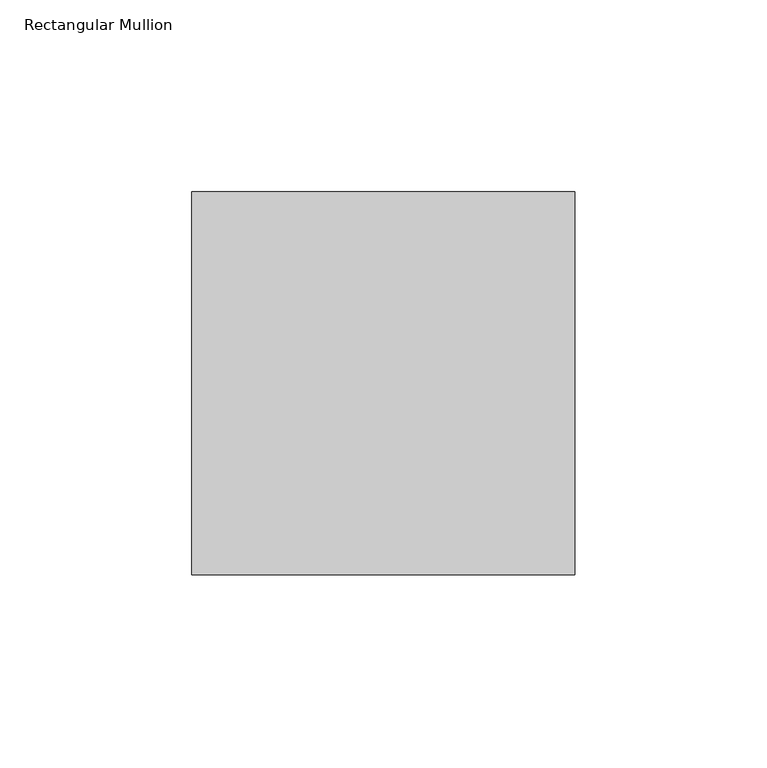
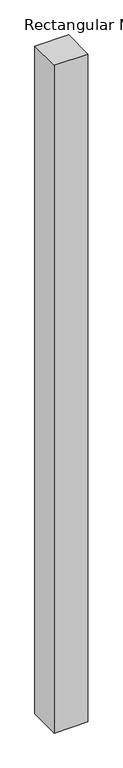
"""IFC4 building model written with IfcOpenShell, lengths in millimetres: member geometry, Rectangular Mullion : ARQ_REJA_PILAR_100x100mm."""

import ifcopenshell
import ifcopenshell.guid

model = None  # the IFC model being written
_history = None  # IfcOwnerHistory: only IFC2X3 demands one
_inside = {}  # id of a spatial element -> (the spatial element, [elements in it])
_under = {}  # id of a project, library or spatial element -> (it, [spatial elements below it])
_declared = {}  # id of a project -> (the project, [libraries it declares])
_typed = {}  # id of a type object -> (the type object, [elements of that type])
_made_of = {}  # id of a material, layer set ... -> (it, [elements and type objects made of it])


def new_model(schema):
    """Start an empty IFC model of exactly this schema.

    Asked for "IFC4X3", IfcOpenShell would pick the latest addendum, in which some entities
    have other attributes; the version numbers below select the first issue.
    IFC2X3 requires an IfcOwnerHistory on every rooted entity: one is made here for all.
    """
    global model, _history
    if schema == "IFC4X3":
        model = ifcopenshell.file(schema_version=(4, 3, 0, 0))
    else:
        model = ifcopenshell.file(schema=schema)
    _inside.clear()
    _under.clear()
    _declared.clear()
    _typed.clear()
    _made_of.clear()
    _history = None
    if model.schema == "IFC2X3":
        org = make("IfcOrganization", Name="unknown")
        user = make(
            "IfcPersonAndOrganization",
            ThePerson=make("IfcPerson", FamilyName="unknown"),
            TheOrganization=org,
        )
        app = make(
            "IfcApplication",
            ApplicationDeveloper=org,
            Version="unknown",
            ApplicationFullName="unknown",
            ApplicationIdentifier="unknown",
        )
        _history = make(
            "IfcOwnerHistory",
            OwningUser=user,
            OwningApplication=app,
            ChangeAction="ADDED",
            CreationDate=0,
        )
    return model


def make(cls, **values):
    """One entity of the class cls with the attributes given. An attribute that is None is left unset."""
    return model.create_entity(
        cls, **{name: value for name, value in values.items() if value is not None}
    )


def rooted(cls, **values):
    """An entity with a GlobalId (a new one), such as an element, a storey or a relation."""
    return make(cls, GlobalId=ifcopenshell.guid.new(), OwnerHistory=_history, **values)


def si_unit(unit_type, name, prefix=None):
    """IfcSIUnit, for example si_unit("LENGTHUNIT", "METRE", prefix="MILLI")."""
    return make("IfcSIUnit", UnitType=unit_type, Prefix=prefix, Name=name)


def assignment(units):
    """IfcUnitAssignment: the units of a project."""
    return None if units is None else make("IfcUnitAssignment", Units=units)


def point(xyz):
    """IfcCartesianPoint."""
    return None if xyz is None else make("IfcCartesianPoint", Coordinates=xyz)


def direction(xyz):
    """IfcDirection."""
    return None if xyz is None else make("IfcDirection", DirectionRatios=xyz)


def frame(location, z_axis=None, x_axis=None):
    """IfcAxis2Placement3D, a coordinate frame: its origin and axes. An axis left out is left unset."""
    return make(
        "IfcAxis2Placement3D",
        Location=point(location),
        Axis=direction(z_axis),
        RefDirection=direction(x_axis),
    )


def origin():
    """The frame at (0, 0, 0) with its axes left unset."""
    return frame((0.0, 0.0, 0.0))


def place(relative_to, where):
    """IfcLocalPlacement: puts the frame where relative to a parent placement (None: the world)."""
    return make(
        "IfcLocalPlacement", PlacementRelTo=relative_to, RelativePlacement=where
    )


def context(
    kind, dimensions, precision=None, world=None, true_north=None, identifier=None
):
    """IfcGeometricRepresentationContext, for example the 3D "Model" context."""
    return make(
        "IfcGeometricRepresentationContext",
        ContextIdentifier=identifier,
        ContextType=kind,
        CoordinateSpaceDimension=dimensions,
        Precision=precision,
        WorldCoordinateSystem=world,
        TrueNorth=true_north,
    )


def project(units=None, contexts=None):
    """IfcProject with its units and contexts."""
    return rooted(
        "IfcProject",
        Name="project",
        RepresentationContexts=contexts,
        UnitsInContext=assignment(units),
    )


def spatial(cls, under=None, at=None, **own):
    """A site, building, storey or space (cls), placed at a placement, below another one or the project."""
    s = rooted(cls, ObjectPlacement=at, **own)
    if under is not None:
        _under.setdefault(under.id(), (under, []))[1].append(s)
    return s


def polyline(points):
    """IfcPolyline through the points."""
    return make("IfcPolyline", Points=[point(p) for p in points])


def outline(outer, holes=None, kind="AREA"):
    """IfcArbitraryClosedProfileDef: a profile drawn as a closed curve; with holes, ...WithVoids."""
    if holes is None:
        return make("IfcArbitraryClosedProfileDef", ProfileType=kind, OuterCurve=outer)
    return make(
        "IfcArbitraryProfileDefWithVoids",
        ProfileType=kind,
        OuterCurve=outer,
        InnerCurves=holes,
    )


def extrude(swept, where, along, depth):
    """IfcExtrudedAreaSolid: the profile swept, set in the frame where, extruded along a direction by depth."""
    return make(
        "IfcExtrudedAreaSolid",
        SweptArea=swept,
        Position=where,
        ExtrudedDirection=direction(along),
        Depth=depth,
    )


def shape(context_of_items, identifier, shape_type, items):
    """IfcShapeRepresentation: the items that make up one representation, for example the "Body"."""
    return make(
        "IfcShapeRepresentation",
        ContextOfItems=context_of_items,
        RepresentationIdentifier=identifier,
        RepresentationType=shape_type,
        Items=items,
    )


def source(mapping_origin, context_of_items, identifier, shape_type, items):
    """IfcRepresentationMap: a shape defined once, which mapped items show again and again."""
    return make(
        "IfcRepresentationMap",
        MappingOrigin=mapping_origin,
        MappedRepresentation=shape(context_of_items, identifier, shape_type, items),
    )


def transform(
    local_origin,
    x_axis=None,
    y_axis=None,
    z_axis=None,
    scale=None,
    scale2=None,
    scale3=None,
    uniform=True,
):
    """IfcCartesianTransformationOperator3D, or its non-uniform kind. x_axis, y_axis, z_axis: its Axis1, 2, 3."""
    if uniform:
        return make(
            "IfcCartesianTransformationOperator3D",
            Axis1=direction(x_axis),
            Axis2=direction(y_axis),
            LocalOrigin=point(local_origin),
            Scale=scale,
            Axis3=direction(z_axis),
        )
    return make(
        "IfcCartesianTransformationOperator3DnonUniform",
        Axis1=direction(x_axis),
        Axis2=direction(y_axis),
        LocalOrigin=point(local_origin),
        Scale=scale,
        Axis3=direction(z_axis),
        Scale2=scale2,
        Scale3=scale3,
    )


def mapped(mapping_source, mapping_target):
    """IfcMappedItem: shows the shape of a source again, moved by a transform."""
    return make(
        "IfcMappedItem", MappingSource=mapping_source, MappingTarget=mapping_target
    )


def made_of(thing, what):
    """Note that an element or type object is made of a material, layer set ...; save() writes the relation."""
    if what is not None:
        _made_of.setdefault(what.id(), (what, []))[1].append(thing)
    return thing


def element(
    cls,
    number,
    at=None,
    inside=None,
    cuts=None,
    type_object=None,
    material=None,
    context=None,
    identifier="Body",
    shape_type=None,
    held_by="IfcProductDefinitionShape",
    body=None,
    shapes=None,
    **own,
):
    """One element of the class cls, such as IfcWall. Its Tag is "e" and its number.

    at: its placement. inside: the storey or other place that contains it. cuts: it is an
    opening in that element (IfcRelVoidsElement). A single representation is given by context,
    identifier, shape_type and body (its items); several are given by shapes. held_by: the class
    of the entity that holds the representations. save() writes the other relations.
    """
    e = rooted(cls, Tag="e%d" % number, ObjectPlacement=at, **own)
    if body is not None:
        shapes = [shape(context, identifier, shape_type, body)]
    if shapes is not None:
        e.Representation = make(held_by, Representations=shapes)
    if inside is not None:
        _inside.setdefault(inside.id(), (inside, []))[1].append(e)
    if cuts is not None:
        rooted(
            "IfcRelVoidsElement", RelatingBuildingElement=cuts, RelatedOpeningElement=e
        )
    if type_object is not None:
        _typed.setdefault(type_object.id(), (type_object, []))[1].append(e)
    return made_of(e, material)


def aggregate(whole, parts):
    """IfcRelAggregates: a whole, such as a stair, and the parts it consists of."""
    return rooted("IfcRelAggregates", RelatingObject=whole, RelatedObjects=parts)


def save(model, path):
    """Write the relations noted so far, then the file.

    IfcRelAggregates (storeys below a building ...), IfcRelContainedInSpatialStructure (elements
    in a storey), IfcRelDefinesByType, IfcRelAssociatesMaterial and IfcRelDeclares: one each for
    every whole, place, type object, material and project.
    """
    for whole, parts in _under.values():
        aggregate(whole, parts)
    for where, things in _inside.values():
        rooted(
            "IfcRelContainedInSpatialStructure",
            RelatedElements=things,
            RelatingStructure=where,
        )
    for kind, things in _typed.values():
        rooted("IfcRelDefinesByType", RelatedObjects=things, RelatingType=kind)
    for what, things in _made_of.values():
        rooted("IfcRelAssociatesMaterial", RelatedObjects=things, RelatingMaterial=what)
    for by, libraries in _declared.values():
        rooted("IfcRelDeclares", RelatingContext=by, RelatedDefinitions=libraries)
    model.write(path)


def rectangular_mullion_c5fa3d75(model_context):
    return source(origin(), model_context, "Body", "SweptSolid", [
        extrude(outline(polyline([(0.0, 50.0), (0.0, -50.0), (-100.0, -50.0), (-100.0, 50.0), (0.0, 50.0)])), frame((0.0, 0.0, -2100.0), z_axis=(0.0, 0.0, 1.0), x_axis=(1.0, 0.0, 0.0)), (0.0, 0.0, 1.0), 2100.0),
    ])


if __name__ == "__main__":
    model = new_model("IFC4")
    model_context = context("Model", 3, world=origin())
    ifc_project = project(units=[si_unit("LENGTHUNIT", "METRE", prefix="MILLI")], contexts=[model_context])
    site = spatial("IfcSite", under=ifc_project)
    building = spatial("IfcBuilding", under=site)
    placement = place(None, origin())
    rectangular_mullion_shape = rectangular_mullion_c5fa3d75(model_context)
    element("IfcMember", 1, ObjectType="Rectangular Mullion : ARQ_REJA_PILAR_100x100mm", at=placement, inside=building, context=model_context, shape_type="MappedRepresentation", body=[
        mapped(rectangular_mullion_shape, transform((0.0, 0.0, 0.0), x_axis=(1.0, 0.0, 0.0), y_axis=(0.0, 1.0, 0.0), z_axis=(0.0, 0.0, 1.0))),
    ])
    save(model, "model.ifc")
